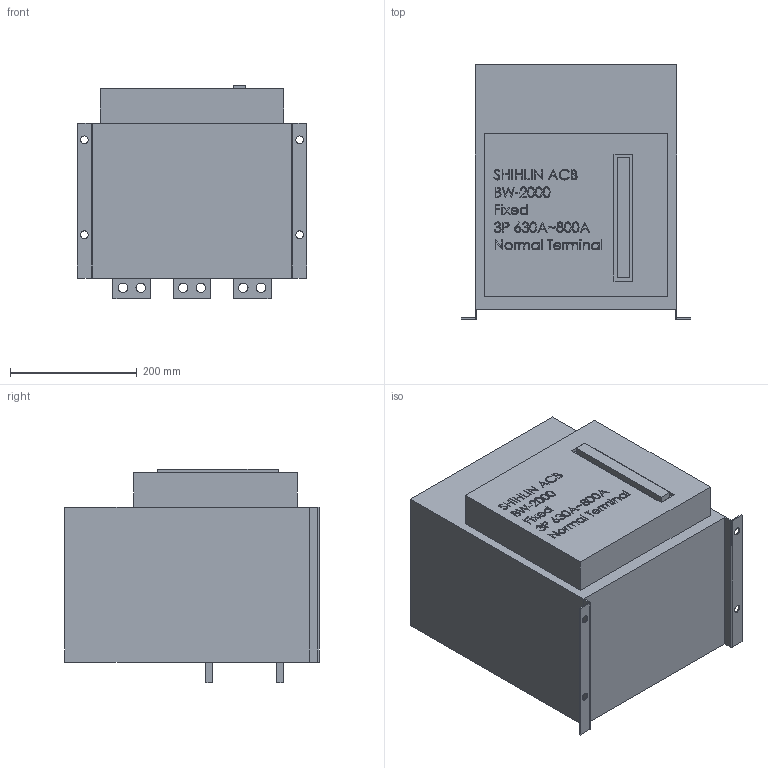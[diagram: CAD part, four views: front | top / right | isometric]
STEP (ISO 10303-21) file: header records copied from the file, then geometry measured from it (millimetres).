
FILE_DESCRIPTION (( 'STEP AP203' ), '1' );
FILE_NAME ('BW-2000-Fixed-3P-630-800A-Normal Terminal.STEP', '2020-04-09T10:59:03', ( '' ), ( '' ), 'SwSTEP 2.0', 'SolidWorks 2017', '' );
FILE_SCHEMA (( 'CONFIG_CONTROL_DESIGN' ));
Products named in the file (1): BW-2000-Fixed-3P-630-800A-Normal Terminal
Bounding box: 362 x 402 x 337 mm (x, y, z)
Volume: 34319965.5 mm3; surface area: 756069.4 mm2
Topology: 3 solids, 3 shells, 705 faces, 1854 edges, 1236 vertices
Faces by surface type: plane 403, bspline 268, cylinder 34
Entity records: 36313 total; most frequent: CARTESIAN_POINT 20512, ORIENTED_EDGE 3708, DIRECTION 2262, EDGE_CURVE 1854, LINE 1250, VECTOR 1250, VERTEX_POINT 1236, EDGE_LOOP 818
